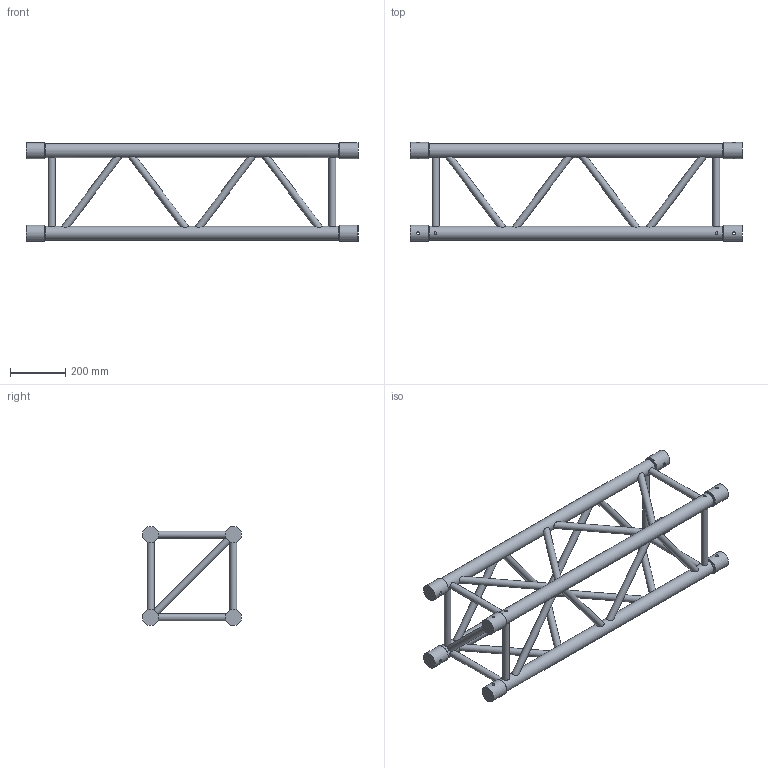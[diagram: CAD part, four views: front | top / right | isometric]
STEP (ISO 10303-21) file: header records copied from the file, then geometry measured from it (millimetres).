
FILE_DESCRIPTION(/* description */ (''),/* implementation_level */ '2;1');
FILE_NAME(/* name */ 'C:\Users\adrian.toca\Desktop\11111062.stp',/* time_stamp */ '2016-09-09T12:20:33+03:00',/* author */ ('adrian.toca'),/* organization */ (''),/* preprocessor_version */ 'ST-DEVELOPER v15.6',/* originating_system */ 'Autodesk Inventor 2015',/* authorisation */ '');
FILE_SCHEMA (('AUTOMOTIVE_DESIGN { 1 0 10303 214 3 1 1 }'));
Length unit declared in the file: millimetre
Products named in the file (1): 260030872
Bounding box: 1200 x 357.8 x 357.8 mm (x, y, z)
Volume: 3060827.2 mm3; surface area: 1425178.1 mm2
Topology: 3 solids, 6 shells, 174 faces, 412 edges, 254 vertices
Faces by surface type: cylinder 94, plane 72, cone 8
Full cylindrical faces by diameter (mm): 10 x8, 25 x26, 50 x4, 58.8 x8
Entity records: 6774 total; most frequent: CARTESIAN_POINT 3225, DIRECTION 644, ORIENTED_EDGE 616, EDGE_LOOP 304, AXIS2_PLACEMENT_3D 303, EDGE_CURVE 282, VERTEX_POINT 204, STYLED_ITEM 159
